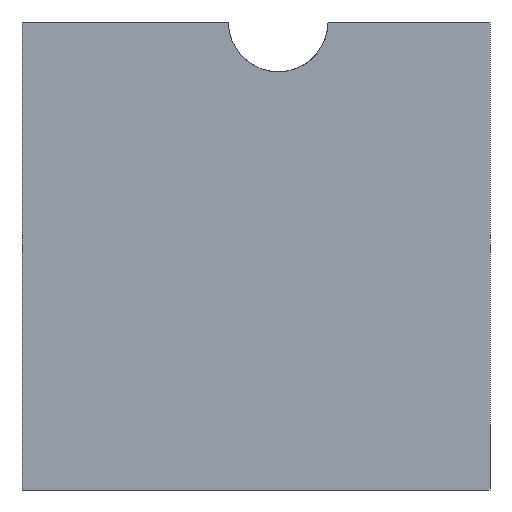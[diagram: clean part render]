
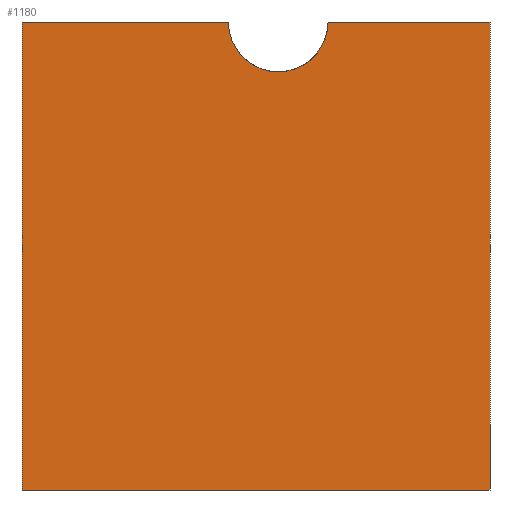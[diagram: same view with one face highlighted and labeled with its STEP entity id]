
A CAD part, left-side view. The second image highlights one B-rep face of the part: STEP entity #1180.
In plain terms, the highlighted planar face has unit normal (-1, 0, 0).
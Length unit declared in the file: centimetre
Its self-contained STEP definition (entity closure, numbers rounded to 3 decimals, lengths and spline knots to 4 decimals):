
#49 = EDGE_CURVE ( 'NONE', #1054, #1749, #1741, .T. ) ;
#86 = CARTESIAN_POINT ( 'NONE',  ( 0., 346.0427, 1000. ) ) ;
#90 = VECTOR ( 'NONE', #1154, 100. ) ;
#153 = CIRCLE ( 'NONE', #529, 106.4675 ) ;
#154 = LINE ( 'NONE', #1771, #732 ) ;
#162 = DIRECTION ( 'NONE',  ( 0., -1., 0. ) ) ;
#189 = DIRECTION ( 'NONE',  ( 0., 0., 1. ) ) ;
#226 = VERTEX_POINT ( 'NONE', #439 ) ;
#251 = VECTOR ( 'NONE', #1325, 100. ) ;
#331 = CARTESIAN_POINT ( 'NONE',  ( 0., 558.9778, 1000. ) ) ;
#394 = CARTESIAN_POINT ( 'NONE',  ( 0., 0., 0. ) ) ;
#439 = CARTESIAN_POINT ( 'NONE',  ( 0., 1000., 0. ) ) ;
#529 = AXIS2_PLACEMENT_3D ( 'NONE', #836, #1536, #189 ) ;
#566 = ORIENTED_EDGE ( 'NONE', *, *, #736, .F. ) ;
#592 = ORIENTED_EDGE ( 'NONE', *, *, #1156, .F. ) ;
#594 = VERTEX_POINT ( 'NONE', #1200 ) ;
#603 = VECTOR ( 'NONE', #162, 100. ) ;
#623 = EDGE_CURVE ( 'NONE', #594, #226, #154, .T. ) ;
#721 = ORIENTED_EDGE ( 'NONE', *, *, #623, .T. ) ;
#732 = VECTOR ( 'NONE', #1051, 100. ) ;
#735 = CARTESIAN_POINT ( 'NONE',  ( 0., 1000., 0. ) ) ;
#736 = EDGE_CURVE ( 'NONE', #594, #1847, #1219, .T. ) ;
#796 = CARTESIAN_POINT ( 'NONE',  ( 0., 1000., 1000. ) ) ;
#836 = CARTESIAN_POINT ( 'NONE',  ( 0., 452.5102, 1000. ) ) ;
#857 = FACE_OUTER_BOUND ( 'NONE', #1916, .T. ) ;
#891 = CARTESIAN_POINT ( 'NONE',  ( 0., 0., 1000. ) ) ;
#1051 = DIRECTION ( 'NONE',  ( 0., 0., -1. ) ) ;
#1054 = VERTEX_POINT ( 'NONE', #86 ) ;
#1073 = VECTOR ( 'NONE', #1770, 100. ) ;
#1085 = EDGE_CURVE ( 'NONE', #226, #1683, #1488, .T. ) ;
#1154 = DIRECTION ( 'NONE',  ( 0., -1., 0. ) ) ;
#1156 = EDGE_CURVE ( 'NONE', #1749, #1683, #1737, .T. ) ;
#1159 = CARTESIAN_POINT ( 'NONE',  ( 0., 1000., 1000. ) ) ;
#1180 = ADVANCED_FACE ( 'NONE', ( #857 ), #1450, .F. ) ;
#1200 = CARTESIAN_POINT ( 'NONE',  ( 0., 1000., 1000. ) ) ;
#1219 = LINE ( 'NONE', #796, #603 ) ;
#1306 = DIRECTION ( 'NONE',  ( 1., 0., 0. ) ) ;
#1325 = DIRECTION ( 'NONE',  ( 0., 0., -1. ) ) ;
#1354 = AXIS2_PLACEMENT_3D ( 'NONE', #1159, #1306, #1910 ) ;
#1391 = ORIENTED_EDGE ( 'NONE', *, *, #49, .F. ) ;
#1444 = ORIENTED_EDGE ( 'NONE', *, *, #1085, .T. ) ;
#1450 = PLANE ( 'NONE',  #1354 ) ;
#1488 = LINE ( 'NONE', #735, #1073 ) ;
#1525 = EDGE_CURVE ( 'NONE', #1847, #1054, #153, .T. ) ;
#1536 = DIRECTION ( 'NONE',  ( -1., 0., 0. ) ) ;
#1613 = CARTESIAN_POINT ( 'NONE',  ( 0., 1000., 1000. ) ) ;
#1683 = VERTEX_POINT ( 'NONE', #394 ) ;
#1737 = LINE ( 'NONE', #1754, #251 ) ;
#1741 = LINE ( 'NONE', #1613, #90 ) ;
#1749 = VERTEX_POINT ( 'NONE', #891 ) ;
#1754 = CARTESIAN_POINT ( 'NONE',  ( 0., 0., 1000. ) ) ;
#1770 = DIRECTION ( 'NONE',  ( 0., -1., 0. ) ) ;
#1771 = CARTESIAN_POINT ( 'NONE',  ( 0., 1000., 1000. ) ) ;
#1807 = ORIENTED_EDGE ( 'NONE', *, *, #1525, .F. ) ;
#1847 = VERTEX_POINT ( 'NONE', #331 ) ;
#1910 = DIRECTION ( 'NONE',  ( 0., 0., -1. ) ) ;
#1916 = EDGE_LOOP ( 'NONE', ( #1391, #1807, #566, #721, #1444, #592 ) ) ;
